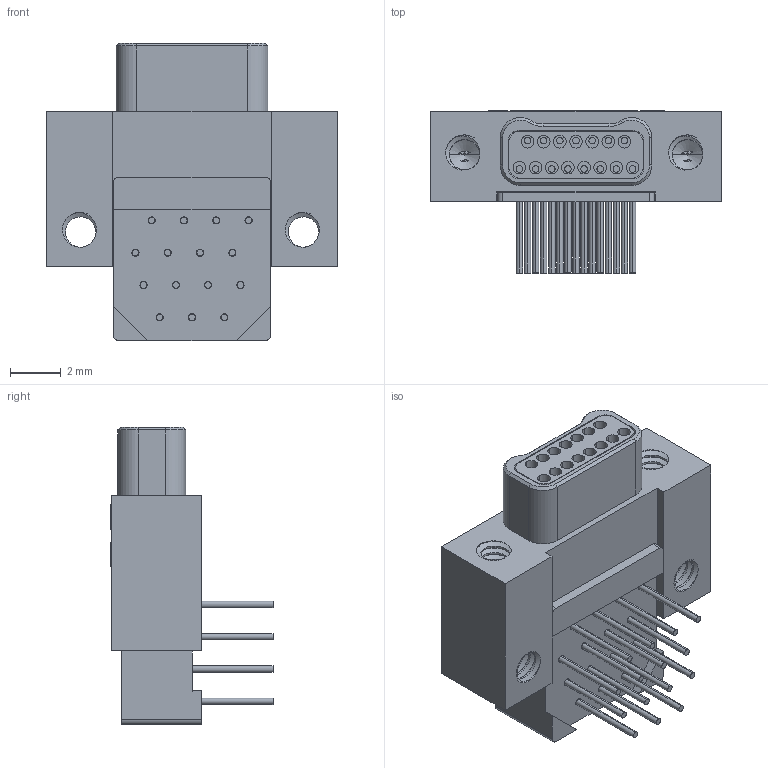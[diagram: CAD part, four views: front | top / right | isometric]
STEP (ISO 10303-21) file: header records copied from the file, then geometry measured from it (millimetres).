
FILE_DESCRIPTION (( 'STEP AP214' ), '1' );
FILE_NAME ('A28400-015 REV J.STEP', '2021-02-26T15:13:15', ( '' ), ( '' ), 'SwSTEP 2.0', 'SolidWorks 2019', '' );
FILE_SCHEMA (( 'AUTOMOTIVE_DESIGN' ));
Length unit declared in the file: inch
Products named in the file (1): A28400-015 REV J
Bounding box: 11.43 x 6.37 x 11.68 mm (x, y, z)
Volume: 285.3 mm3; surface area: 753 mm2
Topology: 1 solids, 3 shells, 615 faces, 1529 edges, 1004 vertices
Faces by surface type: plane 257, cylinder 248, bspline 62, cone 48
Entity records: 36486 total; most frequent: CARTESIAN_POINT 14353, ORIENTED_EDGE 3058, DIRECTION 2729, EDGE_CURVE 1529, VERTEX_POINT 1004, AXIS2_PLACEMENT_3D 962, VECTOR 805, LINE 805
